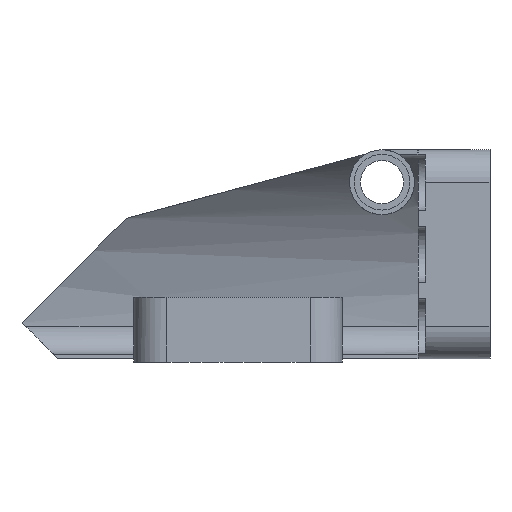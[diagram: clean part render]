
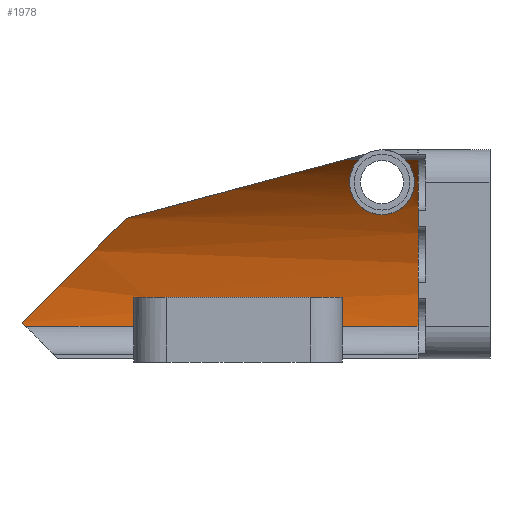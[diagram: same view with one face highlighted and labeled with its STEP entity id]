
A CAD part, front view. The second image highlights one B-rep face of the part: STEP entity #1978.
In plain terms, the highlighted cylindrical face has radius 23.1 mm (diameter 46.2 mm), a partial arc.
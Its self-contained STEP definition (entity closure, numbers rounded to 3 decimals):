
#23=B_SPLINE_CURVE_WITH_KNOTS('',3,(#3164,#3165,#3166,#3167,#3168,#3169,
#3170,#3171,#3172,#3173,#3174,#3175,#3176),.UNSPECIFIED.,.F.,.F.,(4,1,1,
1,1,1,1,1,1,1,4),(0.,0.003,0.005,0.008,
0.009,0.01,0.012,0.013,
0.015,0.018,0.021),.UNSPECIFIED.);
#24=B_SPLINE_CURVE_WITH_KNOTS('',3,(#3189,#3190,#3191,#3192),
 .UNSPECIFIED.,.F.,.F.,(4,4),(0.,0.003),
 .UNSPECIFIED.);
#25=B_SPLINE_CURVE_WITH_KNOTS('',3,(#3196,#3197,#3198,#3199),
 .UNSPECIFIED.,.F.,.F.,(4,4),(0.,0.003),.UNSPECIFIED.);
#33=ELLIPSE('',#2152,89.252,23.1);
#34=ELLIPSE('',#2153,32.668,23.1);
#35=ELLIPSE('',#2154,32.668,23.1);
#49=CYLINDRICAL_SURFACE('',#2151,23.1);
#127=LINE('',#3179,#267);
#128=LINE('',#3187,#268);
#129=LINE('',#3194,#269);
#130=LINE('',#3201,#270);
#131=LINE('',#3205,#271);
#267=VECTOR('',#2478,1000.);
#268=VECTOR('',#2485,1000.);
#269=VECTOR('',#2486,1000.);
#270=VECTOR('',#2487,1000.);
#271=VECTOR('',#2490,1000.);
#455=ORIENTED_EDGE('',*,*,#1026,.T.);
#456=ORIENTED_EDGE('',*,*,#1027,.F.);
#457=ORIENTED_EDGE('',*,*,#1028,.F.);
#458=ORIENTED_EDGE('',*,*,#1029,.F.);
#459=ORIENTED_EDGE('',*,*,#1030,.F.);
#460=ORIENTED_EDGE('',*,*,#1031,.T.);
#461=ORIENTED_EDGE('',*,*,#1032,.T.);
#462=ORIENTED_EDGE('',*,*,#1033,.F.);
#463=ORIENTED_EDGE('',*,*,#1034,.T.);
#464=ORIENTED_EDGE('',*,*,#1035,.T.);
#465=ORIENTED_EDGE('',*,*,#1036,.F.);
#466=ORIENTED_EDGE('',*,*,#1037,.F.);
#1026=EDGE_CURVE('',#1313,#1314,#23,.T.);
#1027=EDGE_CURVE('',#1315,#1314,#127,.T.);
#1028=EDGE_CURVE('',#1316,#1315,#33,.T.);
#1029=EDGE_CURVE('',#1317,#1316,#34,.T.);
#1030=EDGE_CURVE('',#1318,#1317,#35,.T.);
#1031=EDGE_CURVE('',#1318,#1319,#128,.T.);
#1032=EDGE_CURVE('',#1319,#1320,#24,.T.);
#1033=EDGE_CURVE('',#1321,#1320,#129,.F.);
#1034=EDGE_CURVE('',#1321,#1322,#25,.T.);
#1035=EDGE_CURVE('',#1322,#1323,#130,.T.);
#1036=EDGE_CURVE('',#1324,#1323,#1493,.T.);
#1037=EDGE_CURVE('',#1313,#1324,#131,.T.);
#1313=VERTEX_POINT('',#3177);
#1314=VERTEX_POINT('',#3178);
#1315=VERTEX_POINT('',#3180);
#1316=VERTEX_POINT('',#3182);
#1317=VERTEX_POINT('',#3184);
#1318=VERTEX_POINT('',#3186);
#1319=VERTEX_POINT('',#3188);
#1320=VERTEX_POINT('',#3193);
#1321=VERTEX_POINT('',#3195);
#1322=VERTEX_POINT('',#3200);
#1323=VERTEX_POINT('',#3202);
#1324=VERTEX_POINT('',#3204);
#1493=CIRCLE('',#2155,23.1);
#1602=EDGE_LOOP('',(#455,#456,#457,#458,#459,#460,#461,#462,#463,#464,#465,
#466));
#1770=FACE_BOUND('',#1602,.T.);
#1978=ADVANCED_FACE('',(#1770),#49,.F.);
#2151=AXIS2_PLACEMENT_3D('',#3163,#2476,#2477);
#2152=AXIS2_PLACEMENT_3D('',#3181,#2479,#2480);
#2153=AXIS2_PLACEMENT_3D('',#3183,#2481,#2482);
#2154=AXIS2_PLACEMENT_3D('',#3185,#2483,#2484);
#2155=AXIS2_PLACEMENT_3D('',#3203,#2488,#2489);
#2476=DIRECTION('',(1.,0.,0.));
#2477=DIRECTION('',(0.,0.,-1.));
#2478=DIRECTION('',(1.,0.,0.));
#2479=DIRECTION('',(0.259,0.,-0.966));
#2480=DIRECTION('',(0.966,0.,0.259));
#2481=DIRECTION('',(0.707,0.,-0.707));
#2482=DIRECTION('',(0.707,0.,0.707));
#2483=DIRECTION('',(0.707,0.,0.707));
#2484=DIRECTION('',(0.707,0.,-0.707));
#2485=DIRECTION('',(1.,0.,0.));
#2486=DIRECTION('',(1.,0.,0.));
#2487=DIRECTION('',(1.,0.,0.));
#2488=DIRECTION('',(-1.,0.,0.));
#2489=DIRECTION('',(0.,-1.,0.));
#2490=DIRECTION('',(1.,0.,0.));
#3163=CARTESIAN_POINT('',(-60.,-20.,0.));
#3164=CARTESIAN_POINT('',(-9.39,-6.14,18.48));
#3165=CARTESIAN_POINT('',(-8.959,-5.534,18.026));
#3166=CARTESIAN_POINT('',(-8.388,-4.266,16.979));
#3167=CARTESIAN_POINT('',(-8.327,-2.435,15.081));
#3168=CARTESIAN_POINT('',(-9.255,-1.192,13.437));
#3169=CARTESIAN_POINT('',(-10.682,-0.616,12.568));
#3170=CARTESIAN_POINT('',(-11.981,-0.459,12.319));
#3171=CARTESIAN_POINT('',(-13.289,-0.608,12.556));
#3172=CARTESIAN_POINT('',(-14.732,-1.18,13.421));
#3173=CARTESIAN_POINT('',(-15.672,-2.422,15.067));
#3174=CARTESIAN_POINT('',(-15.613,-4.264,16.978));
#3175=CARTESIAN_POINT('',(-15.042,-5.533,18.025));
#3176=CARTESIAN_POINT('',(-14.61,-6.14,18.48));
#3177=CARTESIAN_POINT('',(-9.39,-6.14,18.48));
#3178=CARTESIAN_POINT('',(-14.61,-6.14,18.48));
#3179=CARTESIAN_POINT('',(-60.,-6.14,18.48));
#3180=CARTESIAN_POINT('',(-16.18,-6.14,18.48));
#3181=CARTESIAN_POINT('',(-85.148,-20.,0.));
#3182=CARTESIAN_POINT('',(-40.413,-0.253,11.987));
#3183=CARTESIAN_POINT('',(-52.4,-20.,0.));
#3184=CARTESIAN_POINT('',(-52.,3.097,0.4));
#3185=CARTESIAN_POINT('',(-51.6,-20.,0.));
#3186=CARTESIAN_POINT('',(-51.6,3.1,0.));
#3187=CARTESIAN_POINT('',(-60.,3.1,0.));
#3188=CARTESIAN_POINT('',(-37.83,3.1,0.));
#3189=CARTESIAN_POINT('',(-37.83,3.1,0.));
#3190=CARTESIAN_POINT('',(-37.83,3.1,1.083));
#3191=CARTESIAN_POINT('',(-37.968,3.025,2.147));
#3192=CARTESIAN_POINT('',(-38.164,2.877,3.2));
#3193=CARTESIAN_POINT('',(-38.164,2.877,3.2));
#3194=CARTESIAN_POINT('',(-60.,2.877,3.2));
#3195=CARTESIAN_POINT('',(-17.836,2.877,3.2));
#3196=CARTESIAN_POINT('',(-17.836,2.877,3.2));
#3197=CARTESIAN_POINT('',(-18.032,3.025,2.147));
#3198=CARTESIAN_POINT('',(-18.17,3.1,1.083));
#3199=CARTESIAN_POINT('',(-18.17,3.1,0.));
#3200=CARTESIAN_POINT('',(-18.17,3.1,0.));
#3201=CARTESIAN_POINT('',(-60.,3.1,0.));
#3202=CARTESIAN_POINT('',(-8.,3.1,0.));
#3203=CARTESIAN_POINT('',(-8.,-20.,0.));
#3204=CARTESIAN_POINT('',(-8.,-6.14,18.48));
#3205=CARTESIAN_POINT('',(-60.,-6.14,18.48));
